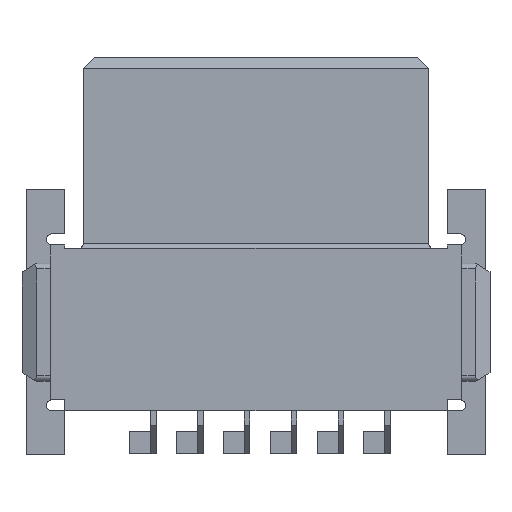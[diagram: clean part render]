
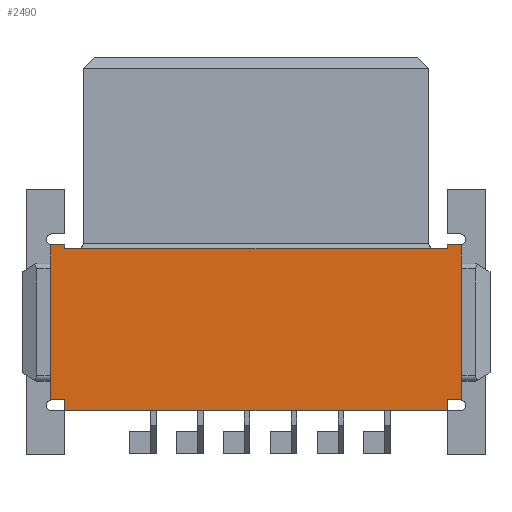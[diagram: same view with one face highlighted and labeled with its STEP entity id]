
A CAD part, front view. The second image highlights one B-rep face of the part: STEP entity #2490.
In plain terms, the highlighted planar face has unit normal (0, -1, 0).
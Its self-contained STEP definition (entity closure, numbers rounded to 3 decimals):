
#2490=ADVANCED_FACE('', (#2500), #2510, .T.);
#21240=AXIS2_PLACEMENT_3D('Ax2Pl3d', #21250, #21260, #21270);
#58270=CARTESIAN_POINT('', (5.185,0.,-19.));
#58280=CARTESIAN_POINT('', (-5.185,0.,-19.));
#58290=CARTESIAN_POINT('', (-5.185,0.,-19.));
#61520=CARTESIAN_POINT('', (-5.185,0.,-18.7));
#61530=CARTESIAN_POINT('', (-5.185,0.,-18.7));
#61910=CARTESIAN_POINT('', (5.185,0.,-18.7));
#61920=CARTESIAN_POINT('', (5.185,0.,-19.));
#21250=CARTESIAN_POINT('HicPkt', (5.185,0.,-14.6));
#61930=CARTESIAN_POINT('', (5.185,0.,-18.7));
#61940=CARTESIAN_POINT('', (5.585,0.,-18.7));
#61950=CARTESIAN_POINT('', (5.585,0.,-18.7));
#61960=CARTESIAN_POINT('', (5.585,0.,-14.5));
#61970=CARTESIAN_POINT('', (5.585,0.,-14.5));
#61980=CARTESIAN_POINT('', (5.185,0.,-14.5));
#61990=CARTESIAN_POINT('', (5.185,0.,-14.5));
#62000=CARTESIAN_POINT('', (5.185,0.,-14.6));
#62010=CARTESIAN_POINT('', (5.185,0.,-14.6));
#62020=CARTESIAN_POINT('', (-5.185,0.,-14.6));
#62030=CARTESIAN_POINT('', (-5.185,0.,-14.6));
#62040=CARTESIAN_POINT('', (-5.185,0.,-14.5));
#62050=CARTESIAN_POINT('', (-5.185,0.,-14.5));
#62060=CARTESIAN_POINT('', (-5.585,0.,-14.5));
#62070=CARTESIAN_POINT('', (-5.585,0.,-14.5));
#62080=CARTESIAN_POINT('', (-5.585,0.,-18.7));
#62090=CARTESIAN_POINT('', (-5.585,0.,-18.7));
#133620=DIRECTION('', (-1.,0.,0.));
#135550=DIRECTION('', (0.,0.,1.));
#135770=DIRECTION('', (0.,0.,-1.));
#21260=DIRECTION('Axis', (0.,-1.,
0.));
#21270=DIRECTION('RefDirection', (0.,
0.,-1.));
#135780=DIRECTION('', (-1.,0.,0.));
#135790=DIRECTION('', (0.,0.,-1.));
#135800=DIRECTION('', (1.,0.,0.));
#135810=DIRECTION('', (0.,0.,1.));
#135820=DIRECTION('', (1.,0.,0.));
#135830=DIRECTION('', (0.,0.,-1.));
#135840=DIRECTION('', (1.,0.,0.));
#135850=DIRECTION('', (0.,0.,1.));
#135860=DIRECTION('', (-1.,0.,0.));
#149500=EDGE_CURVE('', #149480, #149510, #149520, .T.);
#154700=EDGE_CURVE('', #149510, #154710, #154720, .T.);
#155350=EDGE_CURVE('', #155330, #149480, #155360, .T.);
#155370=EDGE_CURVE('', #155380, #155330, #155390, .T.);
#155400=EDGE_CURVE('', #155410, #155380, #155420, .T.);
#155430=EDGE_CURVE('', #155440, #155410, #155450, .T.);
#155460=EDGE_CURVE('', #155470, #155440, #155480, .T.);
#155490=EDGE_CURVE('', #155500, #155470, #155510, .T.);
#155520=EDGE_CURVE('', #155530, #155500, #155540, .T.);
#155550=EDGE_CURVE('', #155560, #155530, #155570, .T.);
#155580=EDGE_CURVE('', #155590, #155560, #155600, .T.);
#155610=EDGE_CURVE('', #154710, #155590, #155620, .T.);
#190540=EDGE_LOOP('Edge_loop', (#190550,#190560,#190570,#190580,#190590,
#190600,#190610,#190620,#190630,#190640,#190650,#190660));
#2500=FACE_OUTER_BOUND('Face_outer_bound', #190540, .T.);
#149520=LINE('Line', #58280, #234760);
#154720=LINE('Line', #61520, #236690);
#155360=LINE('Line', #61920, #236910);
#155390=LINE('Line', #61930, #236920);
#155420=LINE('Line', #61950, #236930);
#155450=LINE('Line', #61970, #236940);
#155480=LINE('Line', #61990, #236950);
#155510=LINE('Line', #62010, #236960);
#155540=LINE('Line', #62030, #236970);
#155570=LINE('Line', #62050, #236980);
#155600=LINE('Line', #62070, #236990);
#155620=LINE('Line', #62090, #237000);
#190550=ORIENTED_EDGE('', *, *, #149500, .F.);
#190560=ORIENTED_EDGE('', *, *, #155350, .F.);
#190570=ORIENTED_EDGE('', *, *, #155370, .F.);
#190580=ORIENTED_EDGE('', *, *, #155400, .F.);
#190590=ORIENTED_EDGE('', *, *, #155430, .F.);
#190600=ORIENTED_EDGE('', *, *, #155460, .F.);
#190610=ORIENTED_EDGE('', *, *, #155490, .F.);
#190620=ORIENTED_EDGE('', *, *, #155520, .F.);
#190630=ORIENTED_EDGE('', *, *, #155550, .F.);
#190640=ORIENTED_EDGE('', *, *, #155580, .F.);
#190650=ORIENTED_EDGE('', *, *, #155610, .F.);
#190660=ORIENTED_EDGE('', *, *, #154700, .F.);
#2510=PLANE('Plane', #21240);
#234760=VECTOR('', #133620, 10.37);
#236690=VECTOR('', #135550, 0.3);
#236910=VECTOR('', #135770, 0.3);
#236920=VECTOR('', #135780, 0.4);
#236930=VECTOR('', #135790, 4.2);
#236940=VECTOR('', #135800, 0.4);
#236950=VECTOR('', #135810, 0.1);
#236960=VECTOR('', #135820, 10.37);
#236970=VECTOR('', #135830, 0.1);
#236980=VECTOR('', #135840, 0.4);
#236990=VECTOR('', #135850, 4.2);
#237000=VECTOR('', #135860, 0.4);
#149480=VERTEX_POINT('', #58270);
#149510=VERTEX_POINT('', #58290);
#154710=VERTEX_POINT('', #61530);
#155330=VERTEX_POINT('', #61910);
#155380=VERTEX_POINT('', #61940);
#155410=VERTEX_POINT('', #61960);
#155440=VERTEX_POINT('', #61980);
#155470=VERTEX_POINT('', #62000);
#155500=VERTEX_POINT('', #62020);
#155530=VERTEX_POINT('', #62040);
#155560=VERTEX_POINT('', #62060);
#155590=VERTEX_POINT('', #62080);
